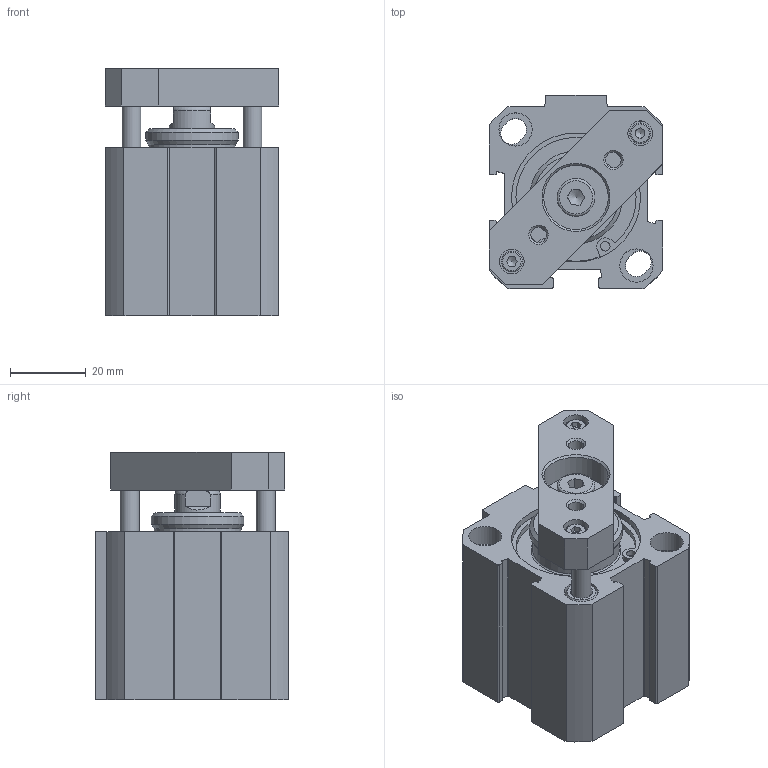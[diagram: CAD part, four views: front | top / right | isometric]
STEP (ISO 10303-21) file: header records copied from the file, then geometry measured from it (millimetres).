
FILE_DESCRIPTION(/* description */ ('Unknown'),/* implementation_level */ '2;1');
FILE_NAME(/* name */ 'FINT 32_5',/* time_stamp */ '2026-05-12T10:16:12+02:00',/* author */ ('Unknown'),/* organization */ ('Unknown'),/* preprocessor_version */ 'ST-DEVELOPER v18.102',/* originating_system */ 'Solid Edge',/* authorisation */ 'Unknown');
FILE_SCHEMA (('PROCESS_PLANNING_SCHEMA','AUTOMOTIVE_DESIGN {1 0 10303 214 3 1 1}'));
Length unit declared in the file: millimetre
Products named in the file (7): FINT 32_5; Führungsstange; Profilrohr; Platte; Kolbenstange; Kit_1; Kit_2
Assembly tree (7 placements, depth 2):
  FINT 32_5
    Führungsstange  x2
    Profilrohr
    Platte
    Kolbenstange
    Kit_1
    Kit_2
Bounding box: 46 x 51 x 65.5 mm (x, y, z)
Volume: 88849 mm3; surface area: 42294.6 mm2
Topology: 9 solids, 10 shells, 311 faces, 712 edges, 454 vertices
Faces by surface type: plane 137, cylinder 104, cone 54, torus 16
Full cylindrical faces by diameter (mm): 1.6 x2, 2.459 x2, 2.5 x4, 3 x2, 3.5 x2, 4.134 x2, 4.92 x1, 5 x4, 5.5 x2, 6.25 x1, 6.5 x2, 8.566 x4, 8.7 x2, 8.8 x6, 9 x2, 10 x1, 12 x2, 12.54 x1, 13.7 x1, 14 x1, 16.32 x1, 16.5 x1, 17 x1, 23 x2, 24.5 x1, 32 x2, 33.7 x4, 34.1 x2, 35.8 x2
Entity records: 9849 total; most frequent: CARTESIAN_POINT 1420, DIRECTION 1406, ORIENTED_EDGE 1090, AXIS2_PLACEMENT_3D 574, EDGE_CURVE 545, FACE_BOUND 491, EDGE_LOOP 486, VERTEX_POINT 422
